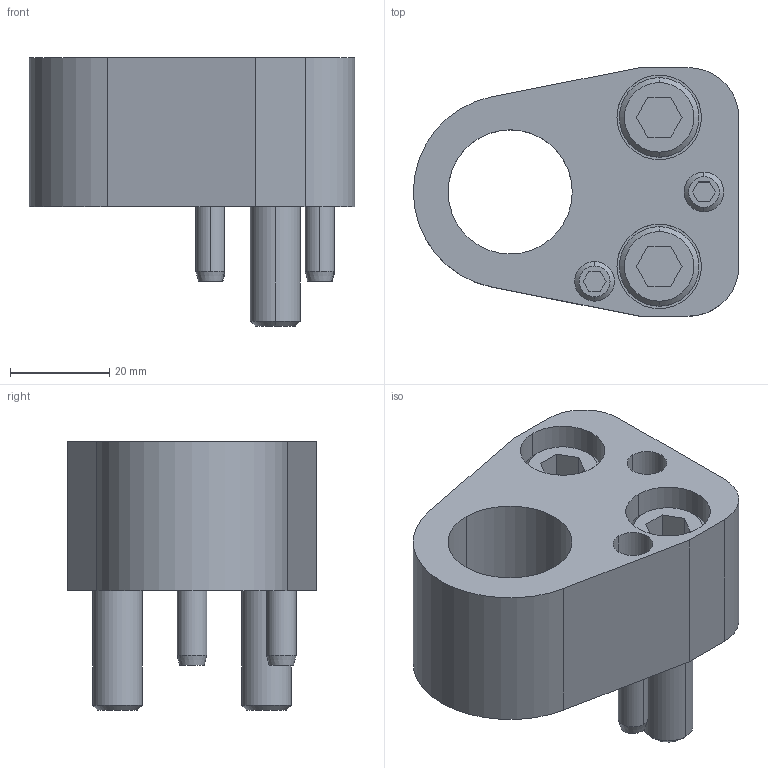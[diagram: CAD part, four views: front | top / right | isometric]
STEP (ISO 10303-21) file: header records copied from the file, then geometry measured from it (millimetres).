
FILE_DESCRIPTION(/* description */ (''),/* implementation_level */ '2;1');
FILE_NAME(/* name */ '3d_fpar25_03768_r00.stp',/* time_stamp */ '2011-01-10T14:15:35+09:00',/* author */ ('MISUMI'),/* organization */ (''),/* preprocessor_version */ 'ST-DEVELOPER v11',/* originating_system */ 'UGS - NX 5.0',/* authorisation */ '');
FILE_SCHEMA (('CONFIG_CONTROL_DESIGN'));
Length unit declared in the file: millimetre
Products named in the file (1): 3d_fpar25_03768_r00
Bounding box: 65.5 x 50 x 54 mm (x, y, z)
Volume: 64830.2 mm3; surface area: 22823.9 mm2
Topology: 7 solids, 7 shells, 135 faces, 294 edges, 188 vertices
Faces by surface type: plane 60, cylinder 49, cone 26
Entity records: 3836 total; most frequent: DIRECTION 684, CARTESIAN_POINT 672, ORIENTED_EDGE 588, EDGE_CURVE 294, AXIS2_PLACEMENT_3D 260, VERTEX_POINT 188, LINE 164, VECTOR 164
